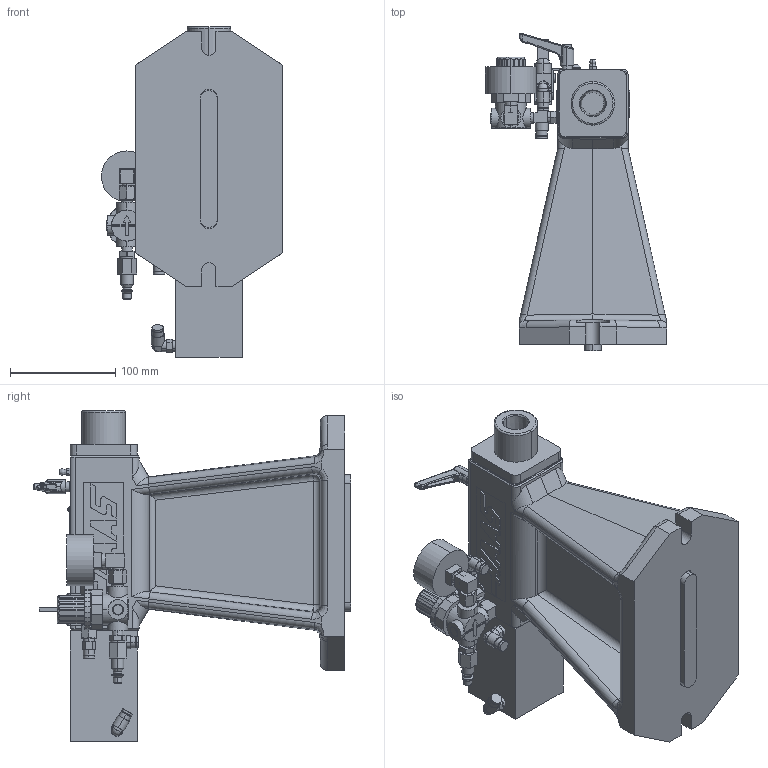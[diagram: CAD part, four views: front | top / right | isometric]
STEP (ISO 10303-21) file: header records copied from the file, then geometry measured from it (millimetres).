
FILE_DESCRIPTION (( 'STEP AP214' ), '1' );
FILE_NAME ('HPTS9_STEP_2020-03.STEP', '2020-03-31T23:19:22', ( '' ), ( '' ), 'SwSTEP 2.0', 'SolidWorks 2019', '' );
FILE_SCHEMA (( 'AUTOMOTIVE_DESIGN' ));
Length unit declared in the file: inch
Products named in the file (1): HPTS9_STEP_2020-03
Bounding box: 171.65 x 301 x 313.67 mm (x, y, z)
Volume: 2940426.5 mm3; surface area: 319841.1 mm2
Topology: 18 solids, 19 shells, 1043 faces, 2625 edges, 1695 vertices
Faces by surface type: plane 548, cylinder 336, cone 78, bspline 52, sphere 17, torus 12
Entity records: 38535 total; most frequent: CARTESIAN_POINT 10432, ORIENTED_EDGE 5238, DIRECTION 5029, EDGE_CURVE 2619, AXIS2_PLACEMENT_3D 1766, VERTEX_POINT 1692, LINE 1497, VECTOR 1497
